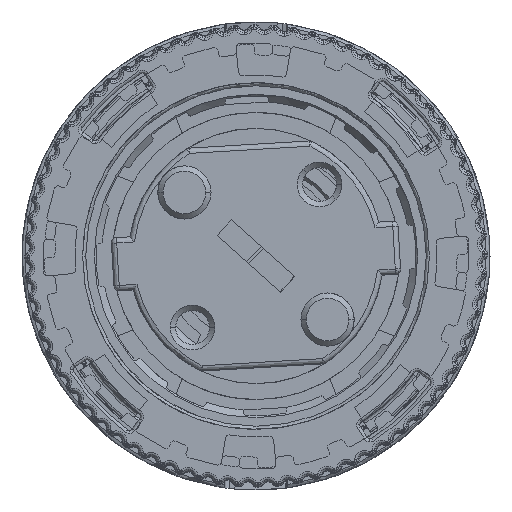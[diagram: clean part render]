
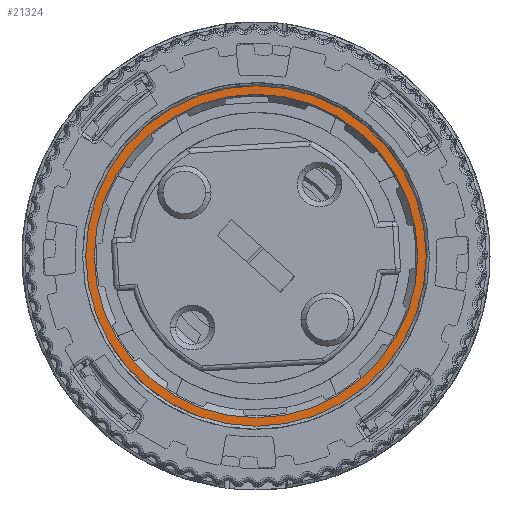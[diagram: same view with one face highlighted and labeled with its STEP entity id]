
A CAD part, left-side view. The second image highlights one B-rep face of the part: STEP entity #21324.
In plain terms, the highlighted planar face has unit normal (-1, 0, 0).
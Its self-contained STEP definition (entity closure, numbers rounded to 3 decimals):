
#4107 = DIRECTION ( 'NONE',  ( 0., 0., 1. ) ) ;
#9048 = ORIENTED_EDGE ( 'NONE', *, *, #169336, .F. ) ;
#14743 = DIRECTION ( 'NONE',  ( -1., 0., 0. ) ) ;
#15042 = CIRCLE ( 'NONE', #125357, 15.2 ) ;
#15378 = VERTEX_POINT ( 'NONE', #137386 ) ;
#16559 = DIRECTION ( 'NONE',  ( 0., 0., 1. ) ) ;
#16669 = EDGE_CURVE ( 'NONE', #35790, #124578, #15042, .T. ) ;
#21324 = ADVANCED_FACE ( 'NONE', ( #37577, #69990 ), #50182, .F. ) ;
#22376 = CARTESIAN_POINT ( 'NONE',  ( -459.921, 2.134, 232.825 ) ) ;
#28242 = EDGE_CURVE ( 'NONE', #173943, #15378, #45078, .T. ) ;
#30556 = CARTESIAN_POINT ( 'NONE',  ( -459.921, 2.134, 248.025 ) ) ;
#35790 = VERTEX_POINT ( 'NONE', #30556 ) ;
#37577 = FACE_BOUND ( 'NONE', #153382, .T. ) ;
#45078 = CIRCLE ( 'NONE', #144118, 16. ) ;
#45284 = DIRECTION ( 'NONE',  ( 1., 0., 0. ) ) ;
#50182 = PLANE ( 'NONE',  #98108 ) ;
#51628 = ORIENTED_EDGE ( 'NONE', *, *, #28242, .F. ) ;
#58693 = DIRECTION ( 'NONE',  ( 0., 0., 1. ) ) ;
#69990 = FACE_OUTER_BOUND ( 'NONE', #146234, .T. ) ;
#72039 = CIRCLE ( 'NONE', #104555, 15.2 ) ;
#78006 = DIRECTION ( 'NONE',  ( 0., 0., -1. ) ) ;
#94630 = AXIS2_PLACEMENT_3D ( 'NONE', #127984, #45284, #4107 ) ;
#98108 = AXIS2_PLACEMENT_3D ( 'NONE', #22376, #161844, #78006 ) ;
#98472 = CIRCLE ( 'NONE', #94630, 16. ) ;
#103474 = DIRECTION ( 'NONE',  ( 0., 0., 1. ) ) ;
#104555 = AXIS2_PLACEMENT_3D ( 'NONE', #141010, #14743, #16559 ) ;
#105252 = CARTESIAN_POINT ( 'NONE',  ( -459.921, 2.134, 216.825 ) ) ;
#110599 = EDGE_CURVE ( 'NONE', #15378, #173943, #98472, .T. ) ;
#110679 = ORIENTED_EDGE ( 'NONE', *, *, #16669, .F. ) ;
#124578 = VERTEX_POINT ( 'NONE', #147906 ) ;
#125357 = AXIS2_PLACEMENT_3D ( 'NONE', #169731, #126913, #58693 ) ;
#126913 = DIRECTION ( 'NONE',  ( -1., 0., 0. ) ) ;
#127984 = CARTESIAN_POINT ( 'NONE',  ( -459.921, 2.134, 232.825 ) ) ;
#137386 = CARTESIAN_POINT ( 'NONE',  ( -459.921, 2.134, 248.825 ) ) ;
#141010 = CARTESIAN_POINT ( 'NONE',  ( -459.921, 2.134, 232.825 ) ) ;
#144118 = AXIS2_PLACEMENT_3D ( 'NONE', #146327, #171714, #103474 ) ;
#146234 = EDGE_LOOP ( 'NONE', ( #151884, #51628 ) ) ;
#146327 = CARTESIAN_POINT ( 'NONE',  ( -459.921, 2.134, 232.825 ) ) ;
#147906 = CARTESIAN_POINT ( 'NONE',  ( -459.921, 2.134, 217.625 ) ) ;
#151884 = ORIENTED_EDGE ( 'NONE', *, *, #110599, .F. ) ;
#153382 = EDGE_LOOP ( 'NONE', ( #110679, #9048 ) ) ;
#161844 = DIRECTION ( 'NONE',  ( 1., 0., 0. ) ) ;
#169336 = EDGE_CURVE ( 'NONE', #124578, #35790, #72039, .T. ) ;
#169731 = CARTESIAN_POINT ( 'NONE',  ( -459.921, 2.134, 232.825 ) ) ;
#171714 = DIRECTION ( 'NONE',  ( 1., 0., 0. ) ) ;
#173943 = VERTEX_POINT ( 'NONE', #105252 ) ;
